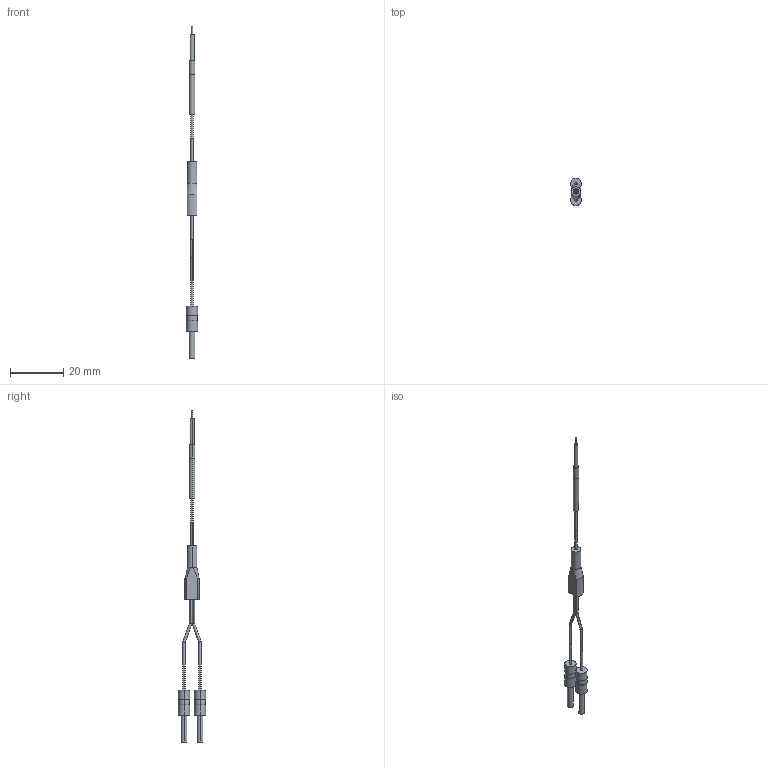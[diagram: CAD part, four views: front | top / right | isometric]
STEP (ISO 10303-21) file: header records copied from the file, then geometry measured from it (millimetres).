
FILE_DESCRIPTION (( 'STEP AP203' ), '1' );
FILE_NAME ('FD-E12.STEP', '2005-09-04T09:19:32', ( '川島良英' ), ( ' ' ), 'SwSTEP 2.0', 'SolidWorks 2004251', '' );
FILE_SCHEMA (( 'CONFIG_CONTROL_DESIGN' ));
Length unit declared in the file: millimetre
Products named in the file (1): FD-E12
Bounding box: 4.33 x 10.33 x 124.5 mm (x, y, z)
Volume: 772.4 mm3; surface area: 1195.7 mm2
Topology: 4 solids, 4 shells, 78 faces, 154 edges, 100 vertices
Faces by surface type: cylinder 50, plane 26, cone 2
Entity records: 2153 total; most frequent: CARTESIAN_POINT 421, DIRECTION 380, ORIENTED_EDGE 308, AXIS2_PLACEMENT_3D 163, EDGE_CURVE 154, VERTEX_POINT 100, EDGE_LOOP 94, CIRCLE 84
